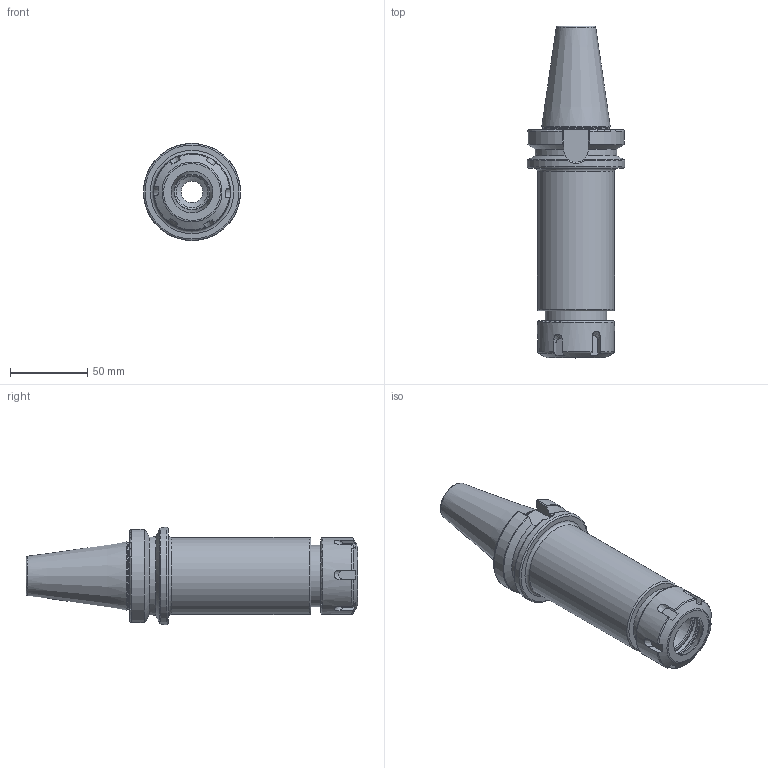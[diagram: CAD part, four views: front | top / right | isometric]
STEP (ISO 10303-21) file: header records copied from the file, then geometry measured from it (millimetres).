
FILE_DESCRIPTION(/* description */ (''),/* implementation_level */ '2;1');
FILE_NAME(/* name */ 'I:\2.客户确认模型及简图\2021.05.02---美国HAAS\BT40-ER32-150.stp',/* time_stamp */ '2021-05-02T13:09:16+08:00',/* author */ ('Administrator'),/* organization */ (''),/* preprocessor_version */ 'ST-DEVELOPER v18.1',/* originating_system */ 'Autodesk Inventor 2021',/* authorisation */ '');
FILE_SCHEMA (('AUTOMOTIVE_DESIGN { 1 0 10303 214 3 1 1 }'));
Length unit declared in the file: millimetre
Products named in the file (3): BT40-ER32-150; BT40-ER32-150_1; ER32UM单偏心压帽最新版
Assembly tree (2 placements, depth 2):
  BT40-ER32-150
    BT40-ER32-150_1
    ER32UM单偏心压帽最新版
Bounding box: 63 x 215.4 x 63 mm (x, y, z)
Volume: 298266.1 mm3; surface area: 54990.1 mm2
Topology: 2 solids, 2 shells, 127 faces, 373 edges, 256 vertices
Faces by surface type: plane 47, torus 25, cylinder 22, cone 17, bspline 16
Full cylindrical faces by diameter (mm): 14 x1, 17 x1, 18 x1, 20.376 x1, 23.5 x1, 27.17 x1, 32.5 x1, 38 x1, 38.376 x1, 40 x1, 40.5 x1, 43.5 x1, 50 x2, 63 x1
Entity records: 5254 total; most frequent: CARTESIAN_POINT 1857, ORIENTED_EDGE 746, DIRECTION 664, EDGE_CURVE 373, AXIS2_PLACEMENT_3D 274, VERTEX_POINT 256, CIRCLE 158, EDGE_LOOP 137
